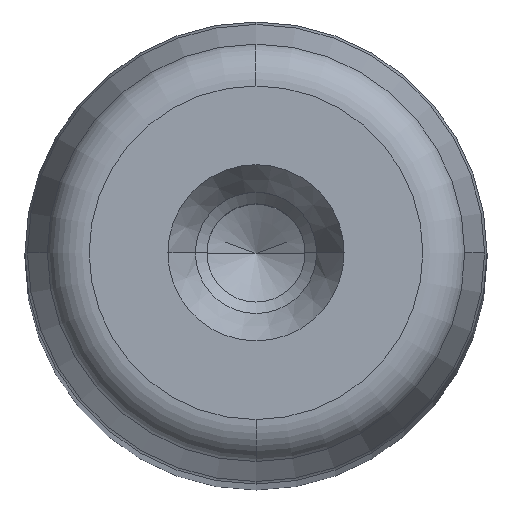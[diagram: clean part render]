
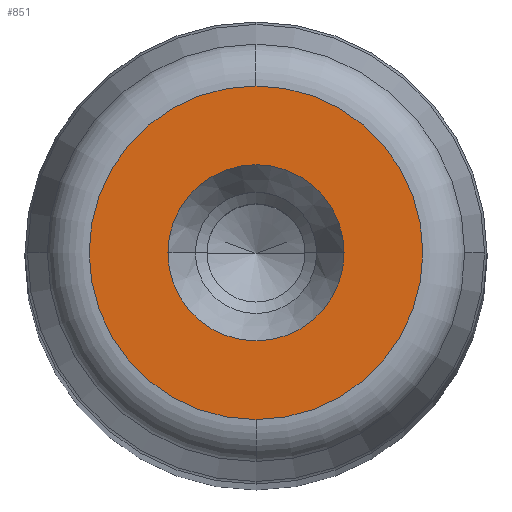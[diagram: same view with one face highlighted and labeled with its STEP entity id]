
A CAD part, top view. The second image highlights one B-rep face of the part: STEP entity #851.
In plain terms, the highlighted planar face has unit normal (0, 0, 1) as drawn and (0, 1, 0) by its records, which use the part's own axes.
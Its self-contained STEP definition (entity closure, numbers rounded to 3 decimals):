
#281=CARTESIAN_POINT('',(6.1,250.0,0.0));
#282=VERTEX_POINT('',#281);
#289=CARTESIAN_POINT('',(-6.1,250.0,0.));
#290=VERTEX_POINT('',#289);
#291=CARTESIAN_POINT('',(0.0,250.0,0.0));
#292=DIRECTION('',(0.0,1.0,0.0));
#293=DIRECTION('',(1.0,0.0,0.0));
#294=AXIS2_PLACEMENT_3D('',#291,#292,#293);
#295=CIRCLE('',#294,6.1);
#296=EDGE_CURVE('',#282,#290,#295,.T.);
#313=CARTESIAN_POINT('',(0.0,250.0,11.554));
#314=VERTEX_POINT('',#313);
#324=CARTESIAN_POINT('',(0.,250.0,-11.554));
#325=VERTEX_POINT('',#324);
#326=CARTESIAN_POINT('',(0.0,250.0,0.0));
#327=DIRECTION('',(0.0,1.0,0.0));
#328=DIRECTION('',(1.0,0.0,0.0));
#329=AXIS2_PLACEMENT_3D('',#326,#327,#328);
#330=CIRCLE('',#329,11.554);
#331=EDGE_CURVE('',#325,#314,#330,.T.);
#812=CARTESIAN_POINT('',(11.554,250.0,0.0));
#813=VERTEX_POINT('',#812);
#814=CARTESIAN_POINT('',(0.0,250.0,0.0));
#815=DIRECTION('',(0.0,1.0,0.0));
#816=DIRECTION('',(1.0,0.0,0.0));
#817=AXIS2_PLACEMENT_3D('',#814,#815,#816);
#818=CIRCLE('',#817,11.554);
#819=EDGE_CURVE('',#813,#325,#818,.T.);
#821=CARTESIAN_POINT('',(0.0,250.0,0.0));
#822=DIRECTION('',(0.0,1.0,0.0));
#823=DIRECTION('',(1.0,0.0,0.0));
#824=AXIS2_PLACEMENT_3D('',#821,#822,#823);
#825=CIRCLE('',#824,11.554);
#826=EDGE_CURVE('',#314,#813,#825,.T.);
#831=CARTESIAN_POINT('',(-12.71,250.0,-12.71));
#832=DIRECTION('',(0.0,1.0,0.0));
#833=DIRECTION('',(0.0,0.0,1.0));
#834=AXIS2_PLACEMENT_3D('',#831,#832,#833);
#835=PLANE('',#834);
#836=ORIENTED_EDGE('',*,*,#819,.T.);
#837=ORIENTED_EDGE('',*,*,#331,.T.);
#838=ORIENTED_EDGE('',*,*,#826,.T.);
#839=EDGE_LOOP('',(#836,#837,#838));
#840=FACE_OUTER_BOUND('',#839,.T.);
#841=ORIENTED_EDGE('',*,*,#296,.F.);
#842=CARTESIAN_POINT('',(0.0,250.0,0.0));
#843=DIRECTION('',(0.0,1.0,0.0));
#844=DIRECTION('',(1.0,0.0,0.0));
#845=AXIS2_PLACEMENT_3D('',#842,#843,#844);
#846=CIRCLE('',#845,6.1);
#847=EDGE_CURVE('',#290,#282,#846,.T.);
#848=ORIENTED_EDGE('',*,*,#847,.F.);
#849=EDGE_LOOP('',(#841,#848));
#850=FACE_BOUND('',#849,.T.);
#851=ADVANCED_FACE('',(#840,#850),#835,.T.);
